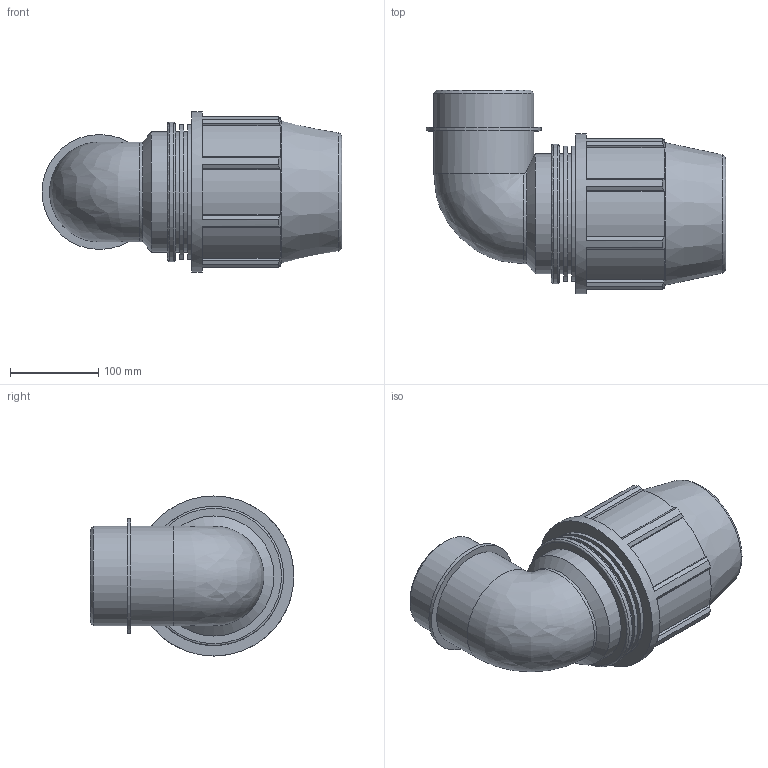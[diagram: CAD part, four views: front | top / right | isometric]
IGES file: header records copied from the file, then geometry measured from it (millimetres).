
Global section: file name: 0785061100400A.ipt; native system: Autodesk Inventor 2015; preprocessor: unknown; author: KIM; date: 20180325.201247; units: millimetre
Bounding box: 338.99 x 230.5 x 181 mm (x, y, z)
Volume: 3240481.7 mm3; surface area: 349233.9 mm2
Topology: 1 solids, 1 shells, 85 faces, 225 edges, 150 vertices
Faces by surface type: plane 52, cylinder 19, revolution 9, cone 4, bspline 1
Full cylindrical faces by diameter (mm): 113.03 x2, 129.984 x1, 135.75 x3, 152.746 x2, 157.47 x1, 181 x1
